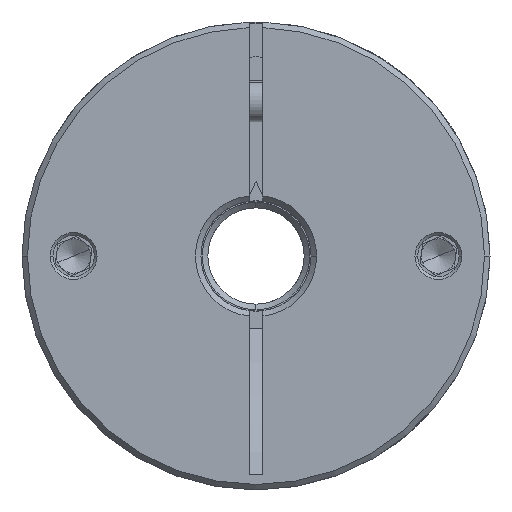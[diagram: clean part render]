
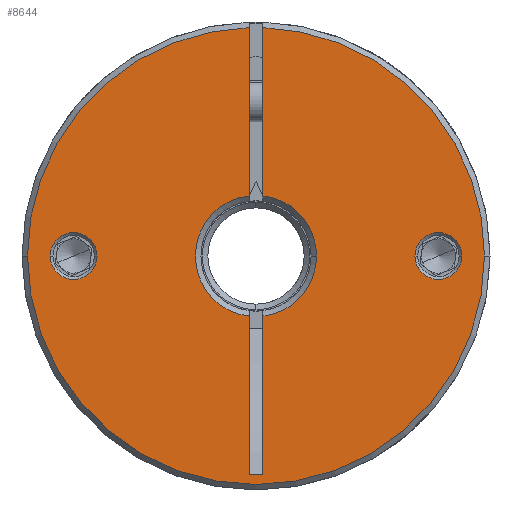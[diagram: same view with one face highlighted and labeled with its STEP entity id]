
A CAD part, front view. The second image highlights one B-rep face of the part: STEP entity #8644.
In plain terms, the highlighted planar face has unit normal (0, -1, 0).
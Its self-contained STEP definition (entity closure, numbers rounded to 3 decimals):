
#234 = EDGE_CURVE ( 'NONE', #447, #7319, #11231, .T. ) ;
#399 = VERTEX_POINT ( 'NONE', #6018 ) ;
#447 = VERTEX_POINT ( 'NONE', #5927 ) ;
#493 = EDGE_LOOP ( 'NONE', ( #8857, #6915 ) ) ;
#498 = AXIS2_PLACEMENT_3D ( 'NONE', #8358, #10546, #10412 ) ;
#503 = AXIS2_PLACEMENT_3D ( 'NONE', #7855, #7898, #10881 ) ;
#705 = CARTESIAN_POINT ( 'NONE',  ( -1.735, -47.045, 59.257 ) ) ;
#925 = CARTESIAN_POINT ( 'NONE',  ( 30.465, -47.045, 68. ) ) ;
#992 = CARTESIAN_POINT ( 'NONE',  ( -3.735, -47.045, 68. ) ) ;
#1102 = VERTEX_POINT ( 'NONE', #925 ) ;
#1105 = CIRCLE ( 'NONE', #10751, 33.2 ) ;
#1178 = CIRCLE ( 'NONE', #9877, 3.4 ) ;
#1411 = VECTOR ( 'NONE', #10482, 1000. ) ;
#1542 = ORIENTED_EDGE ( 'NONE', *, *, #10982, .T. ) ;
#1634 = CARTESIAN_POINT ( 'NONE',  ( -29.235, -47.045, 68. ) ) ;
#1701 = ORIENTED_EDGE ( 'NONE', *, *, #9307, .T. ) ;
#1746 = CARTESIAN_POINT ( 'NONE',  ( -2.735, -47.045, 68. ) ) ;
#1849 = ORIENTED_EDGE ( 'NONE', *, *, #234, .T. ) ;
#1867 = CIRCLE ( 'NONE', #2405, 8.8 ) ;
#1925 = AXIS2_PLACEMENT_3D ( 'NONE', #7290, #12473, #13441 ) ;
#2133 = CIRCLE ( 'NONE', #503, 33.2 ) ;
#2394 = ORIENTED_EDGE ( 'NONE', *, *, #3185, .T. ) ;
#2405 = AXIS2_PLACEMENT_3D ( 'NONE', #5227, #10536, #10404 ) ;
#2573 = DIRECTION ( 'NONE',  ( 1., 0., 0. ) ) ;
#2662 = CARTESIAN_POINT ( 'NONE',  ( -3.735, -47.045, 76.743 ) ) ;
#2893 = EDGE_CURVE ( 'NONE', #7319, #447, #7647, .T. ) ;
#3183 = CARTESIAN_POINT ( 'NONE',  ( 6.065, -47.045, 68. ) ) ;
#3185 = EDGE_CURVE ( 'NONE', #5260, #3700, #1867, .T. ) ;
#3255 = CARTESIAN_POINT ( 'NONE',  ( 27.165, -47.045, 68. ) ) ;
#3405 = DIRECTION ( 'NONE',  ( 1., 0., 0. ) ) ;
#3431 = DIRECTION ( 'NONE',  ( 0., 1., 0. ) ) ;
#3700 = VERTEX_POINT ( 'NONE', #3183 ) ;
#3712 = AXIS2_PLACEMENT_3D ( 'NONE', #12698, #8571, #3405 ) ;
#3764 = FACE_BOUND ( 'NONE', #11758, .T. ) ;
#3828 = EDGE_CURVE ( 'NONE', #3700, #10726, #3849, .T. ) ;
#3849 = CIRCLE ( 'NONE', #5844, 8.8 ) ;
#4312 = VERTEX_POINT ( 'NONE', #5174 ) ;
#4360 = VERTEX_POINT ( 'NONE', #8299 ) ;
#4400 = CARTESIAN_POINT ( 'NONE',  ( 23.765, -47.045, 68. ) ) ;
#4604 = FACE_OUTER_BOUND ( 'NONE', #10501, .T. ) ;
#4653 = ORIENTED_EDGE ( 'NONE', *, *, #7610, .F. ) ;
#4786 = CIRCLE ( 'NONE', #1925, 3.4 ) ;
#5174 = CARTESIAN_POINT ( 'NONE',  ( -3.735, -47.045, 36.279 ) ) ;
#5227 = CARTESIAN_POINT ( 'NONE',  ( -2.735, -47.045, 68. ) ) ;
#5260 = VERTEX_POINT ( 'NONE', #13058 ) ;
#5284 = DIRECTION ( 'NONE',  ( 0., 0., -1. ) ) ;
#5397 = AXIS2_PLACEMENT_3D ( 'NONE', #1746, #8067, #9044 ) ;
#5704 = DIRECTION ( 'NONE',  ( -1., 0., 0. ) ) ;
#5844 = AXIS2_PLACEMENT_3D ( 'NONE', #8408, #8317, #9334 ) ;
#5846 = ORIENTED_EDGE ( 'NONE', *, *, #3828, .T. ) ;
#5927 = CARTESIAN_POINT ( 'NONE',  ( -25.835, -47.045, 68. ) ) ;
#6018 = CARTESIAN_POINT ( 'NONE',  ( 20.365, -47.045, 68. ) ) ;
#6038 = VERTEX_POINT ( 'NONE', #10034 ) ;
#6209 = ORIENTED_EDGE ( 'NONE', *, *, #10902, .T. ) ;
#6243 = ORIENTED_EDGE ( 'NONE', *, *, #8819, .T. ) ;
#6309 = CARTESIAN_POINT ( 'NONE',  ( -1.735, -47.045, 36.279 ) ) ;
#6343 = EDGE_CURVE ( 'NONE', #11026, #6038, #2133, .T. ) ;
#6452 = EDGE_CURVE ( 'NONE', #7127, #4312, #6903, .T. ) ;
#6516 = DIRECTION ( 'NONE',  ( 0., 0., -1. ) ) ;
#6552 = FACE_BOUND ( 'NONE', #493, .T. ) ;
#6651 = EDGE_CURVE ( 'NONE', #10097, #399, #4786, .T. ) ;
#6903 = LINE ( 'NONE', #9886, #7056 ) ;
#6915 = ORIENTED_EDGE ( 'NONE', *, *, #12621, .T. ) ;
#7056 = VECTOR ( 'NONE', #5704, 1000. ) ;
#7066 = VECTOR ( 'NONE', #5284, 1000. ) ;
#7127 = VERTEX_POINT ( 'NONE', #6309 ) ;
#7207 = ORIENTED_EDGE ( 'NONE', *, *, #11028, .T. ) ;
#7290 = CARTESIAN_POINT ( 'NONE',  ( 23.765, -47.045, 68. ) ) ;
#7319 = VERTEX_POINT ( 'NONE', #8713 ) ;
#7380 = CARTESIAN_POINT ( 'NONE',  ( -2.735, -47.045, 68. ) ) ;
#7610 = EDGE_CURVE ( 'NONE', #11026, #12767, #11343, .T. ) ;
#7623 = AXIS2_PLACEMENT_3D ( 'NONE', #10910, #7793, #7665 ) ;
#7647 = CIRCLE ( 'NONE', #7623, 3.4 ) ;
#7661 = CARTESIAN_POINT ( 'NONE',  ( -3.735, -47.045, 101.185 ) ) ;
#7665 = DIRECTION ( 'NONE',  ( 1., 0., 0. ) ) ;
#7793 = DIRECTION ( 'NONE',  ( 0., 1., 0. ) ) ;
#7855 = CARTESIAN_POINT ( 'NONE',  ( -2.735, -47.045, 68. ) ) ;
#7898 = DIRECTION ( 'NONE',  ( 0., -1., 0. ) ) ;
#8067 = DIRECTION ( 'NONE',  ( 0., -1., 0. ) ) ;
#8073 = CARTESIAN_POINT ( 'NONE',  ( -3.735, -47.045, 59.257 ) ) ;
#8180 = DIRECTION ( 'NONE',  ( 0., 0., -1. ) ) ;
#8299 = CARTESIAN_POINT ( 'NONE',  ( -1.735, -47.045, 101.185 ) ) ;
#8301 = VECTOR ( 'NONE', #6516, 1000. ) ;
#8317 = DIRECTION ( 'NONE',  ( 0., 1., 0. ) ) ;
#8358 = CARTESIAN_POINT ( 'NONE',  ( -2.735, -47.045, 68. ) ) ;
#8405 = CARTESIAN_POINT ( 'NONE',  ( -1.735, -47.045, 68. ) ) ;
#8408 = CARTESIAN_POINT ( 'NONE',  ( -2.735, -47.045, 68. ) ) ;
#8460 = CARTESIAN_POINT ( 'NONE',  ( -1.735, -47.045, 68. ) ) ;
#8571 = DIRECTION ( 'NONE',  ( 0., 1., 0. ) ) ;
#8607 = CIRCLE ( 'NONE', #498, 33.2 ) ;
#8644 = ADVANCED_FACE ( 'NONE', ( #6552, #3764, #4604 ), #11076, .T. ) ;
#8713 = CARTESIAN_POINT ( 'NONE',  ( -32.635, -47.045, 68. ) ) ;
#8819 = EDGE_CURVE ( 'NONE', #6038, #1102, #1105, .T. ) ;
#8857 = ORIENTED_EDGE ( 'NONE', *, *, #6651, .T. ) ;
#8867 = ORIENTED_EDGE ( 'NONE', *, *, #6343, .T. ) ;
#8921 = VECTOR ( 'NONE', #8180, 1000. ) ;
#9044 = DIRECTION ( 'NONE',  ( 1., 0., 0. ) ) ;
#9307 = EDGE_CURVE ( 'NONE', #4360, #5260, #10117, .T. ) ;
#9334 = DIRECTION ( 'NONE',  ( 1., 0., 0. ) ) ;
#9354 = DIRECTION ( 'NONE',  ( 0., -1., 0. ) ) ;
#9877 = AXIS2_PLACEMENT_3D ( 'NONE', #4400, #3431, #12776 ) ;
#9886 = CARTESIAN_POINT ( 'NONE',  ( -3.735, -47.045, 36.279 ) ) ;
#10034 = CARTESIAN_POINT ( 'NONE',  ( -35.935, -47.045, 68. ) ) ;
#10097 = VERTEX_POINT ( 'NONE', #3255 ) ;
#10117 = LINE ( 'NONE', #8460, #1411 ) ;
#10132 = CARTESIAN_POINT ( 'NONE',  ( -3.735, -47.045, 68. ) ) ;
#10301 = VERTEX_POINT ( 'NONE', #8073 ) ;
#10404 = DIRECTION ( 'NONE',  ( 1., 0., 0. ) ) ;
#10412 = DIRECTION ( 'NONE',  ( 1., 0., 0. ) ) ;
#10482 = DIRECTION ( 'NONE',  ( 0., 0., -1. ) ) ;
#10501 = EDGE_LOOP ( 'NONE', ( #4653, #8867, #6243, #6209, #1701, #2394, #5846, #1542, #11336, #12008, #7207 ) ) ;
#10536 = DIRECTION ( 'NONE',  ( 0., 1., 0. ) ) ;
#10546 = DIRECTION ( 'NONE',  ( 0., -1., 0. ) ) ;
#10726 = VERTEX_POINT ( 'NONE', #705 ) ;
#10751 = AXIS2_PLACEMENT_3D ( 'NONE', #7380, #9354, #11623 ) ;
#10827 = EDGE_CURVE ( 'NONE', #10301, #4312, #12057, .T. ) ;
#10881 = DIRECTION ( 'NONE',  ( 1., 0., 0. ) ) ;
#10902 = EDGE_CURVE ( 'NONE', #1102, #4360, #8607, .T. ) ;
#10910 = CARTESIAN_POINT ( 'NONE',  ( -29.235, -47.045, 68. ) ) ;
#10982 = EDGE_CURVE ( 'NONE', #10726, #7127, #13538, .T. ) ;
#11026 = VERTEX_POINT ( 'NONE', #7661 ) ;
#11028 = EDGE_CURVE ( 'NONE', #10301, #12767, #13207, .T. ) ;
#11076 = PLANE ( 'NONE',  #5397 ) ;
#11100 = DIRECTION ( 'NONE',  ( 0., 1., 0. ) ) ;
#11231 = CIRCLE ( 'NONE', #12117, 3.4 ) ;
#11336 = ORIENTED_EDGE ( 'NONE', *, *, #6452, .T. ) ;
#11343 = LINE ( 'NONE', #992, #7066 ) ;
#11473 = ORIENTED_EDGE ( 'NONE', *, *, #2893, .T. ) ;
#11623 = DIRECTION ( 'NONE',  ( 1., 0., 0. ) ) ;
#11758 = EDGE_LOOP ( 'NONE', ( #1849, #11473 ) ) ;
#12008 = ORIENTED_EDGE ( 'NONE', *, *, #10827, .F. ) ;
#12057 = LINE ( 'NONE', #10132, #8921 ) ;
#12117 = AXIS2_PLACEMENT_3D ( 'NONE', #1634, #11100, #2573 ) ;
#12473 = DIRECTION ( 'NONE',  ( 0., 1., 0. ) ) ;
#12621 = EDGE_CURVE ( 'NONE', #399, #10097, #1178, .T. ) ;
#12698 = CARTESIAN_POINT ( 'NONE',  ( -2.735, -47.045, 68. ) ) ;
#12767 = VERTEX_POINT ( 'NONE', #2662 ) ;
#12776 = DIRECTION ( 'NONE',  ( 1., 0., 0. ) ) ;
#13058 = CARTESIAN_POINT ( 'NONE',  ( -1.735, -47.045, 76.743 ) ) ;
#13207 = CIRCLE ( 'NONE', #3712, 8.8 ) ;
#13441 = DIRECTION ( 'NONE',  ( 1., 0., 0. ) ) ;
#13538 = LINE ( 'NONE', #8405, #8301 ) ;
